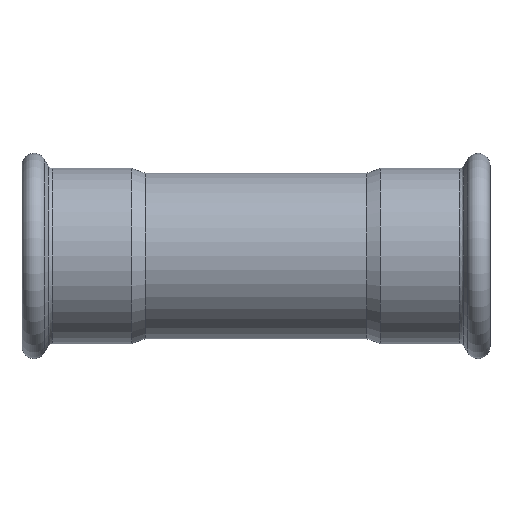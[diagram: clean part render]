
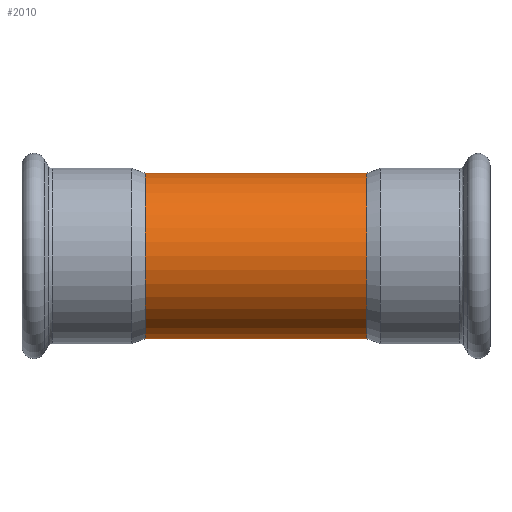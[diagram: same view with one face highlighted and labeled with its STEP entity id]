
A CAD part, front view. The second image highlights one B-rep face of the part: STEP entity #2010.
In plain terms, the highlighted cylindrical face has radius 38.05 mm (diameter 76.1 mm), a full revolution.
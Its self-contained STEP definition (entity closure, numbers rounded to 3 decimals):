
#1811=CARTESIAN_POINT('',(0.,35.99,12.351));
#1812=VERTEX_POINT('',#1811);
#1890=CARTESIAN_POINT('',(0.,35.99,12.351));
#1891=CARTESIAN_POINT('',(0.,35.99,12.351));
#1892=CARTESIAN_POINT('',(0.,35.99,12.351));
#1893=CARTESIAN_POINT('',(0.,35.99,12.351));
#1894=CARTESIAN_POINT('',(0.487,35.99,12.351));
#1895=CARTESIAN_POINT('',(1.343,36.005,12.305));
#1896=CARTESIAN_POINT('',(2.312,36.054,12.161));
#1897=CARTESIAN_POINT('',(3.747,36.152,11.868));
#1898=CARTESIAN_POINT('',(5.237,36.316,11.37));
#1899=CARTESIAN_POINT('',(6.945,36.583,10.472));
#1900=CARTESIAN_POINT('',(8.132,36.805,9.669));
#1901=CARTESIAN_POINT('',(9.116,37.014,8.833));
#1902=CARTESIAN_POINT('',(9.772,37.167,8.156));
#1903=CARTESIAN_POINT('',(10.387,37.317,7.445));
#1904=CARTESIAN_POINT('',(11.022,37.48,6.597));
#1905=CARTESIAN_POINT('',(11.666,37.657,5.494));
#1906=CARTESIAN_POINT('',(12.053,37.767,4.647));
#1907=CARTESIAN_POINT('',(12.39,37.865,3.776));
#1908=CARTESIAN_POINT('',(12.698,37.957,2.768));
#1909=CARTESIAN_POINT('',(12.924,38.027,1.506));
#1910=CARTESIAN_POINT('',(12.993,38.048,0.584));
#1911=CARTESIAN_POINT('',(13.007,38.052,-0.346));
#1912=CARTESIAN_POINT('',(12.945,38.033,-1.395));
#1913=CARTESIAN_POINT('',(12.752,37.974,-2.466));
#1914=CARTESIAN_POINT('',(12.477,37.892,-3.51));
#1915=CARTESIAN_POINT('',(12.07,37.771,-4.683));
#1916=CARTESIAN_POINT('',(11.287,37.55,-6.221));
#1917=CARTESIAN_POINT('',(10.286,37.289,-7.61));
#1918=CARTESIAN_POINT('',(9.428,37.086,-8.522));
#1919=CARTESIAN_POINT('',(8.497,36.881,-9.374));
#1920=CARTESIAN_POINT('',(7.61,36.703,-10.046));
#1921=CARTESIAN_POINT('',(6.524,36.517,-10.696));
#1922=CARTESIAN_POINT('',(5.382,36.344,-11.272));
#1923=CARTESIAN_POINT('',(4.166,36.198,-11.728));
#1924=CARTESIAN_POINT('',(2.906,36.092,-12.05));
#1925=CARTESIAN_POINT('',(1.314,35.994,-12.338));
#1926=CARTESIAN_POINT('',(-0.25,35.975,-12.395));
#1927=CARTESIAN_POINT('',(-1.547,36.019,-12.266));
#1928=CARTESIAN_POINT('',(-2.51,36.063,-12.136));
#1929=CARTESIAN_POINT('',(-3.861,36.162,-11.843));
#1930=CARTESIAN_POINT('',(-5.536,36.362,-11.214));
#1931=CARTESIAN_POINT('',(-6.662,36.539,-10.62));
#1932=CARTESIAN_POINT('',(-7.737,36.728,-9.95));
#1933=CARTESIAN_POINT('',(-8.878,36.957,-9.085));
#1934=CARTESIAN_POINT('',(-9.978,37.214,-7.958));
#1935=CARTESIAN_POINT('',(-10.74,37.407,-6.978));
#1936=CARTESIAN_POINT('',(-11.43,37.59,-5.94));
#1937=CARTESIAN_POINT('',(-12.069,37.771,-4.685));
#1938=CARTESIAN_POINT('',(-12.476,37.891,-3.516));
#1939=CARTESIAN_POINT('',(-12.79,37.985,-2.321));
#1940=CARTESIAN_POINT('',(-13.013,38.054,-0.932));
#1941=CARTESIAN_POINT('',(-13.012,38.054,0.466));
#1942=CARTESIAN_POINT('',(-12.89,38.016,1.694));
#1943=CARTESIAN_POINT('',(-12.671,37.949,2.921));
#1944=CARTESIAN_POINT('',(-12.135,37.79,4.556));
#1945=CARTESIAN_POINT('',(-11.292,37.551,6.21));
#1946=CARTESIAN_POINT('',(-10.285,37.288,7.613));
#1947=CARTESIAN_POINT('',(-9.204,37.033,8.758));
#1948=CARTESIAN_POINT('',(-7.773,36.728,9.975));
#1949=CARTESIAN_POINT('',(-6.114,36.439,10.968));
#1950=CARTESIAN_POINT('',(-4.325,36.216,11.674));
#1951=CARTESIAN_POINT('',(-2.45,36.045,12.192));
#1952=CARTESIAN_POINT('',(-0.973,35.99,12.351));
#1953=CARTESIAN_POINT('',(0.,35.99,12.351));
#1954=B_SPLINE_CURVE_WITH_KNOTS('',3,(#1890,#1891,#1892,#1893,#1894,#1895,#1896,#1897,#1898,#1899,#1900,#1901,#1902,#1903,#1904,#1905,#1906,#1907,#1908,#1909,#1910,#1911,#1912,#1913,#1914,#1915,#1916,#1917,#1918,#1919,#1920,#1921,#1922,#1923,#1924,#1925,#1926,#1927,#1928,#1929,#1930,#1931,#1932,#1933,#1934,#1935,#1936,#1937,#1938,#1939,#1940,#1941,#1942,#1943,#1944,#1945,#1946,#1947,#1948,#1949,#1950,#1951,#1952,#1953),.UNSPECIFIED.,.T.,.U.,(4,3,1,1,1,1,1,1,1,1,1,1,1,1,1,1,1,1,1,1,1,1,1,1,1,1,1,1,1,1,1,1,1,1,1,1,1,1,1,1,1,1,1,1,1,1,1,1,1,1,1,1,1,1,1,1,1,1,1,4),(-6.671,-6.671,-6.552,-6.462,-6.433,-6.194,-6.075,-5.956,-5.837,-5.748,-5.718,-5.599,-5.48,-5.39,-5.361,-5.241,-5.122,-5.033,-5.003,-4.884,-4.765,-4.725,-4.606,-4.447,-4.288,-4.169,-4.13,-3.971,-3.891,-3.812,-3.653,-3.574,-3.494,-3.256,-3.197,-3.177,-3.018,-2.859,-2.74,-2.7,-2.541,-2.382,-2.303,-2.224,-2.065,-1.946,-1.906,-1.747,-1.588,-1.549,-1.429,-1.271,-1.112,-0.953,-0.834,-0.715,-0.476,-0.357,-0.238,0.),.UNSPECIFIED.);
#1955=EDGE_CURVE('',#1812,#1812,#1954,.T.);
#1980=CARTESIAN_POINT('',(0.,0.,0.0));
#1981=DIRECTION('',(1.0,0.,0.0));
#1982=DIRECTION('',(0.0,1.0,0.0));
#1983=AXIS2_PLACEMENT_3D('',#1980,#1981,#1982);
#1984=CYLINDRICAL_SURFACE('',#1983,38.05);
#1985=CARTESIAN_POINT('',(-50.966,38.05,0.0));
#1986=VERTEX_POINT('',#1985);
#1987=CARTESIAN_POINT('',(-50.966,0.,0.0));
#1988=DIRECTION('',(1.0,0.0,0.0));
#1989=DIRECTION('',(0.0,1.0,0.0));
#1990=AXIS2_PLACEMENT_3D('',#1987,#1988,#1989);
#1991=CIRCLE('',#1990,38.05);
#1992=EDGE_CURVE('',#1986,#1986,#1991,.T.);
#1993=ORIENTED_EDGE('',*,*,#1992,.T.);
#1994=EDGE_LOOP('',(#1993));
#1995=FACE_OUTER_BOUND('',#1994,.T.);
#1996=CARTESIAN_POINT('',(50.966,38.05,0.0));
#1997=VERTEX_POINT('',#1996);
#1998=CARTESIAN_POINT('',(50.966,0.,0.0));
#1999=DIRECTION('',(1.0,0.0,0.0));
#2000=DIRECTION('',(0.0,1.0,0.0));
#2001=AXIS2_PLACEMENT_3D('',#1998,#1999,#2000);
#2002=CIRCLE('',#2001,38.05);
#2003=EDGE_CURVE('',#1997,#1997,#2002,.T.);
#2004=ORIENTED_EDGE('',*,*,#2003,.F.);
#2005=EDGE_LOOP('',(#2004));
#2006=FACE_BOUND('',#2005,.T.);
#2007=ORIENTED_EDGE('',*,*,#1955,.F.);
#2008=EDGE_LOOP('',(#2007));
#2009=FACE_BOUND('',#2008,.T.);
#2010=ADVANCED_FACE('',(#1995,#2006,#2009),#1984,.T.);
